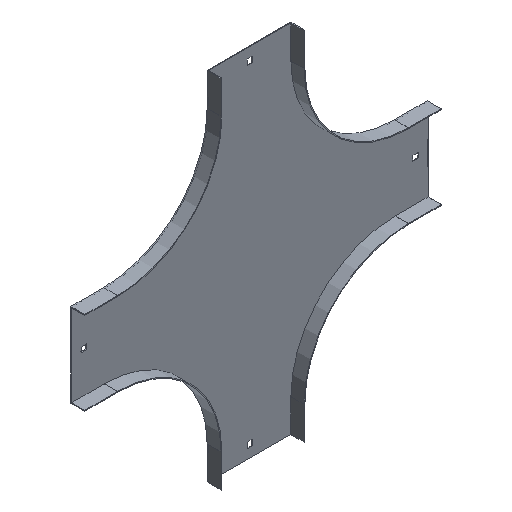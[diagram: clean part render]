
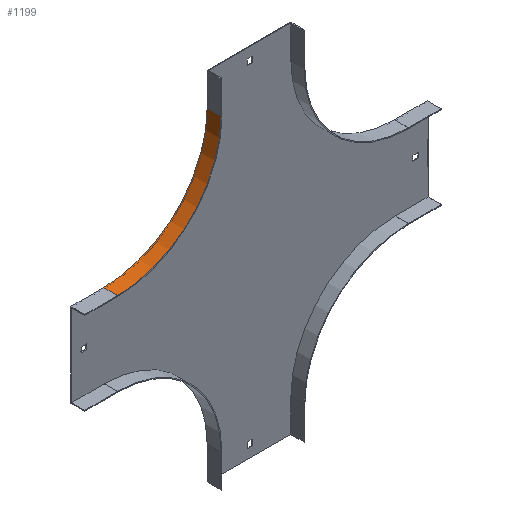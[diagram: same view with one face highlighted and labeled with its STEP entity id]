
A CAD part, isometric view. The second image highlights one B-rep face of the part: STEP entity #1199.
In plain terms, the highlighted cylindrical face has radius 126 mm (diameter 252 mm), a partial arc.
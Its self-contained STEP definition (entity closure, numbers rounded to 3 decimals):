
#83 = ORIENTED_EDGE ( 'NONE', *, *, #1527, .F. ) ;
#180 = VECTOR ( 'NONE', #1006, 1000. ) ;
#257 = DIRECTION ( 'NONE',  ( 0., 1., 0. ) ) ;
#380 = EDGE_LOOP ( 'NONE', ( #83, #907, #680, #1513 ) ) ;
#452 = CARTESIAN_POINT ( 'NONE',  ( -228., -17., 0. ) ) ;
#477 = CIRCLE ( 'NONE', #725, 126. ) ;
#586 = DIRECTION ( 'NONE',  ( 0., 1., 0. ) ) ;
#603 = CARTESIAN_POINT ( 'NONE',  ( -354., -17., 0. ) ) ;
#604 = DIRECTION ( 'NONE',  ( 0., 0., 1. ) ) ;
#617 = LINE ( 'NONE', #1651, #776 ) ;
#630 = CARTESIAN_POINT ( 'NONE',  ( -228., 0., 0. ) ) ;
#640 = CIRCLE ( 'NONE', #1076, 126. ) ;
#680 = ORIENTED_EDGE ( 'NONE', *, *, #1035, .T. ) ;
#683 = DIRECTION ( 'NONE',  ( 0., 0., 1. ) ) ;
#725 = AXIS2_PLACEMENT_3D ( 'NONE', #603, #1121, #1633 ) ;
#732 = CYLINDRICAL_SURFACE ( 'NONE', #1345, 126. ) ;
#771 = VERTEX_POINT ( 'NONE', #1571 ) ;
#776 = VECTOR ( 'NONE', #257, 1000. ) ;
#852 = CARTESIAN_POINT ( 'NONE',  ( -354., -17., 0. ) ) ;
#907 = ORIENTED_EDGE ( 'NONE', *, *, #1378, .F. ) ;
#986 = EDGE_CURVE ( 'NONE', #1620, #1115, #1002, .T. ) ;
#1002 = LINE ( 'NONE', #1265, #180 ) ;
#1006 = DIRECTION ( 'NONE',  ( 0., 1., 0. ) ) ;
#1035 = EDGE_CURVE ( 'NONE', #771, #1620, #477, .T. ) ;
#1076 = AXIS2_PLACEMENT_3D ( 'NONE', #1572, #1564, #683 ) ;
#1115 = VERTEX_POINT ( 'NONE', #630 ) ;
#1121 = DIRECTION ( 'NONE',  ( 0., -1., 0. ) ) ;
#1199 = ADVANCED_FACE ( 'NONE', ( #1499 ), #732, .F. ) ;
#1265 = CARTESIAN_POINT ( 'NONE',  ( -228., -17., 0. ) ) ;
#1345 = AXIS2_PLACEMENT_3D ( 'NONE', #852, #586, #604 ) ;
#1378 = EDGE_CURVE ( 'NONE', #771, #1539, #617, .T. ) ;
#1462 = CARTESIAN_POINT ( 'NONE',  ( -354., 0., -126. ) ) ;
#1499 = FACE_OUTER_BOUND ( 'NONE', #380, .T. ) ;
#1513 = ORIENTED_EDGE ( 'NONE', *, *, #986, .T. ) ;
#1527 = EDGE_CURVE ( 'NONE', #1539, #1115, #640, .T. ) ;
#1539 = VERTEX_POINT ( 'NONE', #1462 ) ;
#1564 = DIRECTION ( 'NONE',  ( 0., -1., 0. ) ) ;
#1571 = CARTESIAN_POINT ( 'NONE',  ( -354., -17., -126. ) ) ;
#1572 = CARTESIAN_POINT ( 'NONE',  ( -354., 0., 0. ) ) ;
#1620 = VERTEX_POINT ( 'NONE', #452 ) ;
#1633 = DIRECTION ( 'NONE',  ( 0., 0., 1. ) ) ;
#1651 = CARTESIAN_POINT ( 'NONE',  ( -354., -17., -126. ) ) ;
